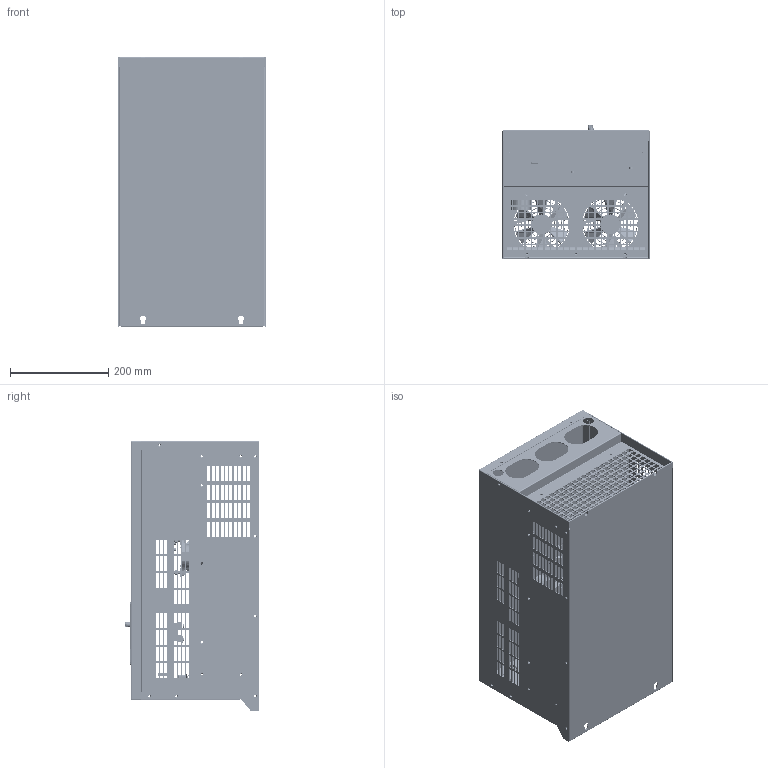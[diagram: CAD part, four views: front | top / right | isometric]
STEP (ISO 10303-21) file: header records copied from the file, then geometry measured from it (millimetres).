
FILE_DESCRIPTION((''),'2;1');
FILE_NAME('ESQ-760-4T-55KW','2020-07-13T',('ranqinwen'),(''),'CREO PARAMETRIC BY PTC INC, 2016260','CREO PARAMETRIC BY PTC INC, 2016260','');
FILE_SCHEMA(('AUTOMOTIVE_DESIGN { 1 0 10303 214 1 1 1 1 }'));
Products named in the file (1): ESQ-760-4T-55KW
Bounding box: 300 x 272.5 x 550 mm (x, y, z)
Surface area: 2462457.5 mm2 (no closed solid volume)
Topology: 0 solids, 248 shells, 9463 faces, 24982 edges, 15893 vertices
Faces by surface type: plane 6033, cylinder 2488, torus 342, extrusion 209, bspline 194, cone 143, sphere 50, revolution 4
Entity records: 446133 total; most frequent: CARTESIAN_POINT 64183, ORIENTED_EDGE 49864, DIRECTION 48233, PRESENTATION_STYLE_ASSIGNMENT 34856, STYLED_ITEM 25393, CURVE_STYLE 25145, EDGE_CURVE 24932, VECTOR 17899
